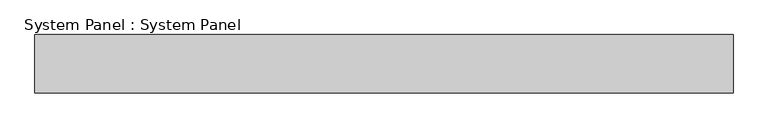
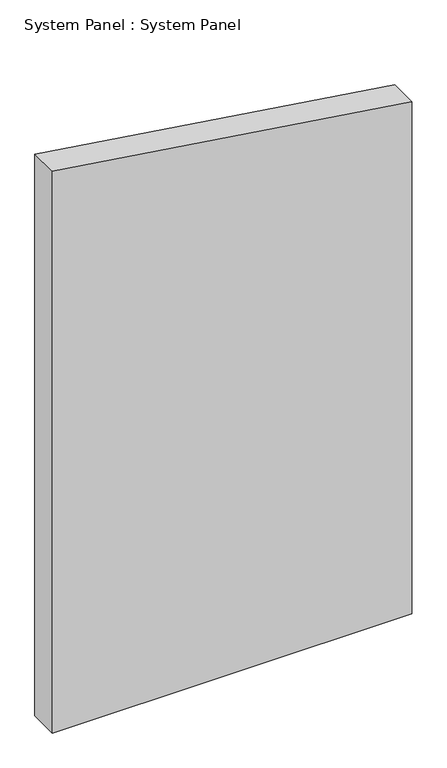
"""IFC4 building model written with IfcOpenShell, lengths in millimetres: plate geometry, System Panel : System Panel."""

from ifc_helpers import new_model, si_unit, frame, origin, place, context, project, spatial, polyline, outline, extrude, source, transform, mapped, element, save


def system_panel_system_panel_68fa3782(model_context):
    return source(origin(), model_context, "Body", "SweptSolid", [
        extrude(outline(polyline([(0.0, 608.5596948), (1831.9634278, 608.5596948), (2010.3023436, -608.5596948), (0.0, -608.5596948), (0.0, 608.5596948)])), frame((0.0, -50.8, 0.0), z_axis=(0.0, 1.0, 0.0), x_axis=(0.0, 0.0, 1.0)), (0.0, 0.0, 1.0), 101.6),
    ])


if __name__ == "__main__":
    model = new_model("IFC4")
    model_context = context("Model", 3, world=origin())
    ifc_project = project(units=[si_unit("LENGTHUNIT", "METRE", prefix="MILLI")], contexts=[model_context])
    site = spatial("IfcSite", under=ifc_project)
    building = spatial("IfcBuilding", under=site)
    placement = place(None, origin())
    system_panel_system_panel_shape = system_panel_system_panel_68fa3782(model_context)
    element("IfcPlate", 1, ObjectType="System Panel : System Panel", at=placement, inside=building, context=model_context, shape_type="MappedRepresentation", body=[
        mapped(system_panel_system_panel_shape, transform((0.0, 0.0, 0.0), x_axis=(1.0, 0.0, 0.0), y_axis=(0.0, 1.0, 0.0), z_axis=(0.0, 0.0, 1.0))),
    ])
    save(model, "model.ifc")
